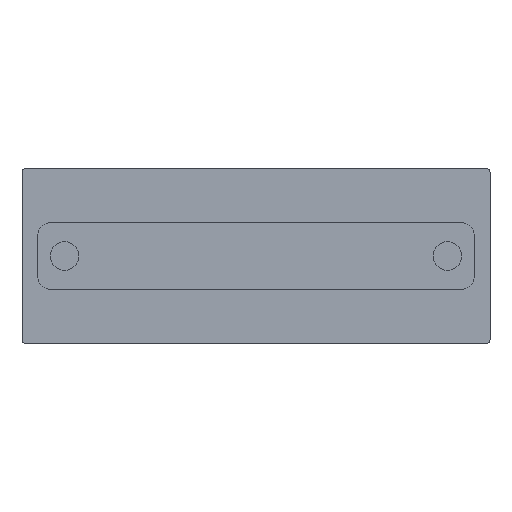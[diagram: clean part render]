
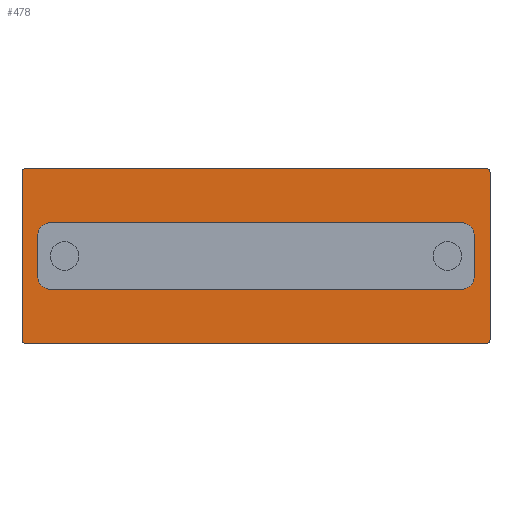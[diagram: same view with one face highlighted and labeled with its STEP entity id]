
A CAD part, front view. The second image highlights one B-rep face of the part: STEP entity #478.
In plain terms, the highlighted planar face has unit normal (0, -1, 0).
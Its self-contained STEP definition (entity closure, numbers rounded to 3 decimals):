
#3 = DIRECTION ( 'NONE',  ( 0., -1., 0. ) ) ;
#7 = CARTESIAN_POINT ( 'NONE',  ( -28., 0., -10. ) ) ;
#8 = EDGE_CURVE ( 'NONE', #420, #857, #761, .T. ) ;
#11 = CARTESIAN_POINT ( 'NONE',  ( -24.6, 0., 4. ) ) ;
#20 = CIRCLE ( 'NONE', #141, 0.5 ) ;
#21 = VECTOR ( 'NONE', #200, 1000. ) ;
#22 = AXIS2_PLACEMENT_3D ( 'NONE', #144, #703, #256 ) ;
#34 = VERTEX_POINT ( 'NONE', #562 ) ;
#35 = CARTESIAN_POINT ( 'NONE',  ( -24.6, 0., 4. ) ) ;
#75 = LINE ( 'NONE', #795, #853 ) ;
#79 = VERTEX_POINT ( 'NONE', #942 ) ;
#92 = ORIENTED_EDGE ( 'NONE', *, *, #150, .T. ) ;
#96 = CIRCLE ( 'NONE', #747, 1.5 ) ;
#99 = EDGE_CURVE ( 'NONE', #967, #229, #353, .T. ) ;
#110 = VERTEX_POINT ( 'NONE', #210 ) ;
#139 = EDGE_LOOP ( 'NONE', ( #423, #838, #190, #456, #92, #858, #339, #278 ) ) ;
#141 = AXIS2_PLACEMENT_3D ( 'NONE', #157, #707, #271 ) ;
#142 = LINE ( 'NONE', #797, #21 ) ;
#143 = ORIENTED_EDGE ( 'NONE', *, *, #401, .F. ) ;
#144 = CARTESIAN_POINT ( 'NONE',  ( -24.6, 0., -2.5 ) ) ;
#150 = EDGE_CURVE ( 'NONE', #955, #371, #199, .T. ) ;
#157 = CARTESIAN_POINT ( 'NONE',  ( 27.5, 0., 10. ) ) ;
#168 = LINE ( 'NONE', #35, #922 ) ;
#175 = VECTOR ( 'NONE', #762, 1000. ) ;
#179 = VECTOR ( 'NONE', #603, 1000. ) ;
#186 = EDGE_CURVE ( 'NONE', #910, #602, #142, .T. ) ;
#189 = VERTEX_POINT ( 'NONE', #611 ) ;
#190 = ORIENTED_EDGE ( 'NONE', *, *, #937, .T. ) ;
#198 = CIRCLE ( 'NONE', #22, 1.5 ) ;
#199 = CIRCLE ( 'NONE', #614, 0.5 ) ;
#200 = DIRECTION ( 'NONE',  ( 0., 0., -1. ) ) ;
#201 = VECTOR ( 'NONE', #949, 1000. ) ;
#210 = CARTESIAN_POINT ( 'NONE',  ( 28., 0., 10. ) ) ;
#229 = VERTEX_POINT ( 'NONE', #852 ) ;
#236 = FACE_OUTER_BOUND ( 'NONE', #139, .T. ) ;
#238 = LINE ( 'NONE', #861, #175 ) ;
#244 = VERTEX_POINT ( 'NONE', #7 ) ;
#246 = ORIENTED_EDGE ( 'NONE', *, *, #186, .F. ) ;
#247 = EDGE_CURVE ( 'NONE', #110, #371, #873, .T. ) ;
#248 = CARTESIAN_POINT ( 'NONE',  ( 28., 0., -10. ) ) ;
#253 = ORIENTED_EDGE ( 'NONE', *, *, #8, .T. ) ;
#256 = DIRECTION ( 'NONE',  ( 0., 0., -1. ) ) ;
#265 = AXIS2_PLACEMENT_3D ( 'NONE', #538, #3, #596 ) ;
#271 = DIRECTION ( 'NONE',  ( 0., 0., 1. ) ) ;
#278 = ORIENTED_EDGE ( 'NONE', *, *, #99, .F. ) ;
#282 = FACE_BOUND ( 'NONE', #300, .T. ) ;
#292 = ORIENTED_EDGE ( 'NONE', *, *, #418, .F. ) ;
#298 = AXIS2_PLACEMENT_3D ( 'NONE', #389, #825, #462 ) ;
#300 = EDGE_LOOP ( 'NONE', ( #315, #253, #143, #246, #915, #862, #292, #907 ) ) ;
#306 = VERTEX_POINT ( 'NONE', #11 ) ;
#315 = ORIENTED_EDGE ( 'NONE', *, *, #668, .F. ) ;
#339 = ORIENTED_EDGE ( 'NONE', *, *, #440, .T. ) ;
#343 = DIRECTION ( 'NONE',  ( 0., -1., 0. ) ) ;
#345 = EDGE_CURVE ( 'NONE', #955, #189, #238, .T. ) ;
#353 = LINE ( 'NONE', #941, #842 ) ;
#371 = VERTEX_POINT ( 'NONE', #248 ) ;
#383 = CARTESIAN_POINT ( 'NONE',  ( -27.5, 0., 10. ) ) ;
#389 = CARTESIAN_POINT ( 'NONE',  ( 24.6, 0., 2.5 ) ) ;
#393 = DIRECTION ( 'NONE',  ( 0., 0., 1. ) ) ;
#401 = EDGE_CURVE ( 'NONE', #602, #857, #198, .T. ) ;
#410 = CARTESIAN_POINT ( 'NONE',  ( -26.1, 0., -2.5 ) ) ;
#418 = EDGE_CURVE ( 'NONE', #607, #34, #427, .T. ) ;
#420 = VERTEX_POINT ( 'NONE', #706 ) ;
#423 = ORIENTED_EDGE ( 'NONE', *, *, #921, .T. ) ;
#426 = LINE ( 'NONE', #605, #439 ) ;
#427 = CIRCLE ( 'NONE', #298, 1.5 ) ;
#439 = VECTOR ( 'NONE', #930, 1000. ) ;
#440 = EDGE_CURVE ( 'NONE', #110, #229, #20, .T. ) ;
#456 = ORIENTED_EDGE ( 'NONE', *, *, #345, .F. ) ;
#457 = DIRECTION ( 'NONE',  ( 0., 0., 1. ) ) ;
#461 = DIRECTION ( 'NONE',  ( 0., -1., 0. ) ) ;
#462 = DIRECTION ( 'NONE',  ( 0., 0., 1. ) ) ;
#478 = ADVANCED_FACE ( 'NONE', ( #282, #236 ), #709, .F. ) ;
#495 = DIRECTION ( 'NONE',  ( 0., -1., 0. ) ) ;
#501 = DIRECTION ( 'NONE',  ( 1., 0., 0. ) ) ;
#508 = CIRCLE ( 'NONE', #779, 0.5 ) ;
#517 = CIRCLE ( 'NONE', #914, 0.5 ) ;
#538 = CARTESIAN_POINT ( 'NONE',  ( -24.6, 0., 2.5 ) ) ;
#540 = CARTESIAN_POINT ( 'NONE',  ( 26.1, 0., 2.5 ) ) ;
#553 = AXIS2_PLACEMENT_3D ( 'NONE', #964, #777, #393 ) ;
#559 = EDGE_CURVE ( 'NONE', #306, #910, #578, .T. ) ;
#562 = CARTESIAN_POINT ( 'NONE',  ( 24.6, 0., 4. ) ) ;
#565 = CARTESIAN_POINT ( 'NONE',  ( -24.6, 0., -4. ) ) ;
#570 = CARTESIAN_POINT ( 'NONE',  ( -26.1, 0., 2.5 ) ) ;
#578 = CIRCLE ( 'NONE', #265, 1.5 ) ;
#579 = CARTESIAN_POINT ( 'NONE',  ( 27.5, 0., -10.5 ) ) ;
#596 = DIRECTION ( 'NONE',  ( 0., 0., -1. ) ) ;
#602 = VERTEX_POINT ( 'NONE', #410 ) ;
#603 = DIRECTION ( 'NONE',  ( 0., 0., -1. ) ) ;
#605 = CARTESIAN_POINT ( 'NONE',  ( 26.1, 0., 2.5 ) ) ;
#607 = VERTEX_POINT ( 'NONE', #540 ) ;
#608 = CARTESIAN_POINT ( 'NONE',  ( 26.1, 0., -2.5 ) ) ;
#611 = CARTESIAN_POINT ( 'NONE',  ( -27.5, 0., -10.5 ) ) ;
#614 = AXIS2_PLACEMENT_3D ( 'NONE', #801, #343, #738 ) ;
#625 = DIRECTION ( 'NONE',  ( 1., 0., 0. ) ) ;
#627 = CARTESIAN_POINT ( 'NONE',  ( -24.6, 0., -4. ) ) ;
#629 = EDGE_CURVE ( 'NONE', #638, #607, #426, .T. ) ;
#638 = VERTEX_POINT ( 'NONE', #608 ) ;
#668 = EDGE_CURVE ( 'NONE', #420, #638, #96, .T. ) ;
#675 = DIRECTION ( 'NONE',  ( 0., 0., 1. ) ) ;
#702 = EDGE_CURVE ( 'NONE', #244, #79, #75, .T. ) ;
#703 = DIRECTION ( 'NONE',  ( 0., -1., 0. ) ) ;
#706 = CARTESIAN_POINT ( 'NONE',  ( 24.6, 0., -4. ) ) ;
#707 = DIRECTION ( 'NONE',  ( 0., -1., 0. ) ) ;
#709 = PLANE ( 'NONE',  #553 ) ;
#738 = DIRECTION ( 'NONE',  ( 0., 0., 1. ) ) ;
#747 = AXIS2_PLACEMENT_3D ( 'NONE', #867, #495, #935 ) ;
#761 = LINE ( 'NONE', #627, #201 ) ;
#762 = DIRECTION ( 'NONE',  ( -1., 0., 0. ) ) ;
#777 = DIRECTION ( 'NONE',  ( 0., 1., 0. ) ) ;
#779 = AXIS2_PLACEMENT_3D ( 'NONE', #383, #820, #457 ) ;
#785 = EDGE_CURVE ( 'NONE', #306, #34, #168, .T. ) ;
#795 = CARTESIAN_POINT ( 'NONE',  ( -28., 0., -10.5 ) ) ;
#797 = CARTESIAN_POINT ( 'NONE',  ( -26.1, 0., 2.5 ) ) ;
#801 = CARTESIAN_POINT ( 'NONE',  ( 27.5, 0., -10. ) ) ;
#820 = DIRECTION ( 'NONE',  ( 0., -1., 0. ) ) ;
#823 = CARTESIAN_POINT ( 'NONE',  ( -27.5, 0., -10. ) ) ;
#825 = DIRECTION ( 'NONE',  ( 0., -1., 0. ) ) ;
#838 = ORIENTED_EDGE ( 'NONE', *, *, #702, .F. ) ;
#842 = VECTOR ( 'NONE', #501, 1000. ) ;
#852 = CARTESIAN_POINT ( 'NONE',  ( 27.5, 0., 10.5 ) ) ;
#853 = VECTOR ( 'NONE', #675, 1000. ) ;
#857 = VERTEX_POINT ( 'NONE', #565 ) ;
#858 = ORIENTED_EDGE ( 'NONE', *, *, #247, .F. ) ;
#861 = CARTESIAN_POINT ( 'NONE',  ( -28., 0., -10.5 ) ) ;
#862 = ORIENTED_EDGE ( 'NONE', *, *, #785, .T. ) ;
#867 = CARTESIAN_POINT ( 'NONE',  ( 24.6, 0., -2.5 ) ) ;
#873 = LINE ( 'NONE', #927, #179 ) ;
#903 = DIRECTION ( 'NONE',  ( 0., 0., 1. ) ) ;
#907 = ORIENTED_EDGE ( 'NONE', *, *, #629, .F. ) ;
#910 = VERTEX_POINT ( 'NONE', #570 ) ;
#914 = AXIS2_PLACEMENT_3D ( 'NONE', #823, #461, #903 ) ;
#915 = ORIENTED_EDGE ( 'NONE', *, *, #559, .F. ) ;
#921 = EDGE_CURVE ( 'NONE', #967, #79, #508, .T. ) ;
#922 = VECTOR ( 'NONE', #625, 1000. ) ;
#927 = CARTESIAN_POINT ( 'NONE',  ( 28., 0., -10.5 ) ) ;
#930 = DIRECTION ( 'NONE',  ( 0., 0., 1. ) ) ;
#935 = DIRECTION ( 'NONE',  ( 0., 0., -1. ) ) ;
#937 = EDGE_CURVE ( 'NONE', #244, #189, #517, .T. ) ;
#941 = CARTESIAN_POINT ( 'NONE',  ( -28., 0., 10.5 ) ) ;
#942 = CARTESIAN_POINT ( 'NONE',  ( -28., 0., 10. ) ) ;
#949 = DIRECTION ( 'NONE',  ( -1., 0., 0. ) ) ;
#955 = VERTEX_POINT ( 'NONE', #579 ) ;
#960 = CARTESIAN_POINT ( 'NONE',  ( -27.5, 0., 10.5 ) ) ;
#964 = CARTESIAN_POINT ( 'NONE',  ( 0., 0., 0. ) ) ;
#967 = VERTEX_POINT ( 'NONE', #960 ) ;
